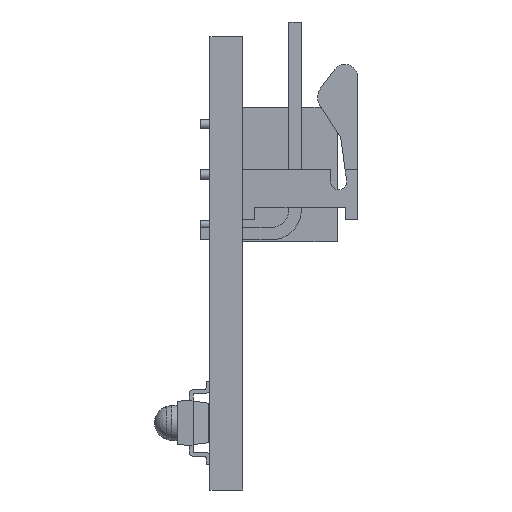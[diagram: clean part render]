
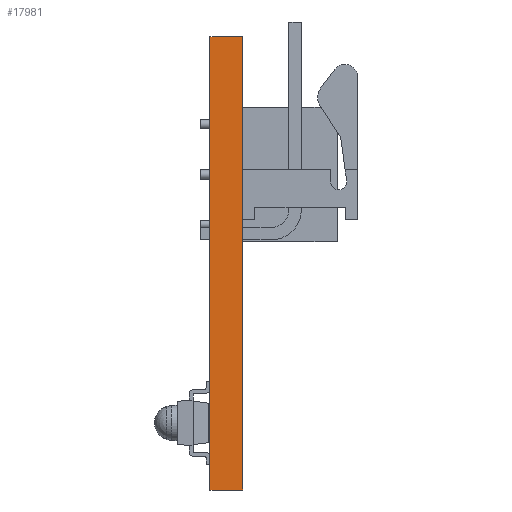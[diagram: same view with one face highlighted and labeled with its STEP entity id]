
A CAD part, left-side view. The second image highlights one B-rep face of the part: STEP entity #17981.
In plain terms, the highlighted planar face has unit normal (-1, 0, 0).
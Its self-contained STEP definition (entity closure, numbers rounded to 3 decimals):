
#918=PLANE('',#19312);
#1249=LINE('',#25098,#3197);
#2887=LINE('',#28965,#4835);
#2890=LINE('',#28970,#4838);
#2891=LINE('',#28972,#4839);
#3197=VECTOR('',#20257,10.);
#4835=VECTOR('',#23873,10.);
#4838=VECTOR('',#23880,10.);
#4839=VECTOR('',#23883,10.);
#5948=FACE_OUTER_BOUND('',#7079,.T.);
#7079=EDGE_LOOP('',(#16125,#16126,#16127,#16128));
#7784=VERTEX_POINT('',#25095);
#7785=VERTEX_POINT('',#25097);
#9022=VERTEX_POINT('',#28958);
#9025=VERTEX_POINT('',#28963);
#9500=EDGE_CURVE('',#7784,#7785,#1249,.T.);
#11390=EDGE_CURVE('',#9025,#9022,#2887,.T.);
#11393=EDGE_CURVE('',#9025,#7785,#2890,.T.);
#11394=EDGE_CURVE('',#9022,#7784,#2891,.T.);
#16125=ORIENTED_EDGE('',*,*,#11393,.T.);
#16126=ORIENTED_EDGE('',*,*,#9500,.F.);
#16127=ORIENTED_EDGE('',*,*,#11394,.F.);
#16128=ORIENTED_EDGE('',*,*,#11390,.F.);
#17981=ADVANCED_FACE('',(#5948),#918,.T.);
#19312=AXIS2_PLACEMENT_3D('',#28971,#23881,#23882);
#20257=DIRECTION('',(0.,0.,1.));
#23873=DIRECTION('',(0.,0.,-1.));
#23880=DIRECTION('',(0.,1.,0.));
#23881=DIRECTION('center_axis',(-1.,0.,0.));
#23882=DIRECTION('ref_axis',(0.,0.,1.));
#23883=DIRECTION('',(0.,1.,0.));
#25095=CARTESIAN_POINT('',(0.,0.825,-22.987));
#25097=CARTESIAN_POINT('',(0.,0.825,0.));
#25098=CARTESIAN_POINT('',(0.,0.825,-22.987));
#28958=CARTESIAN_POINT('',(0.,-0.825,-22.987));
#28963=CARTESIAN_POINT('',(0.,-0.825,0.));
#28965=CARTESIAN_POINT('',(0.,-0.825,-22.987));
#28970=CARTESIAN_POINT('',(0.,0.,0.));
#28971=CARTESIAN_POINT('Origin',(0.,0.,-22.987));
#28972=CARTESIAN_POINT('',(0.,0.,-22.987));
